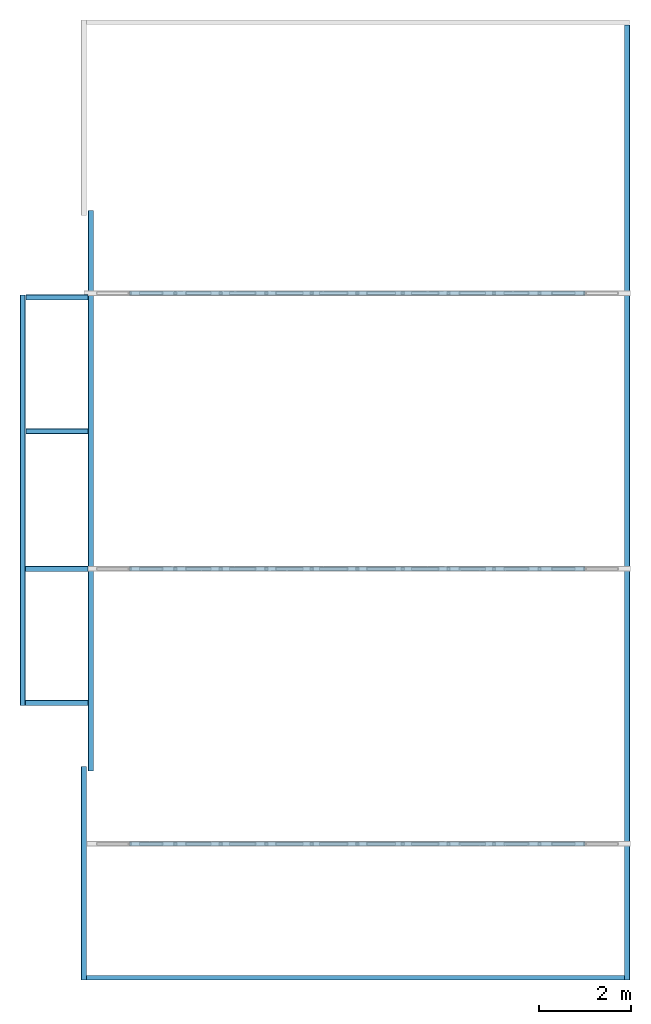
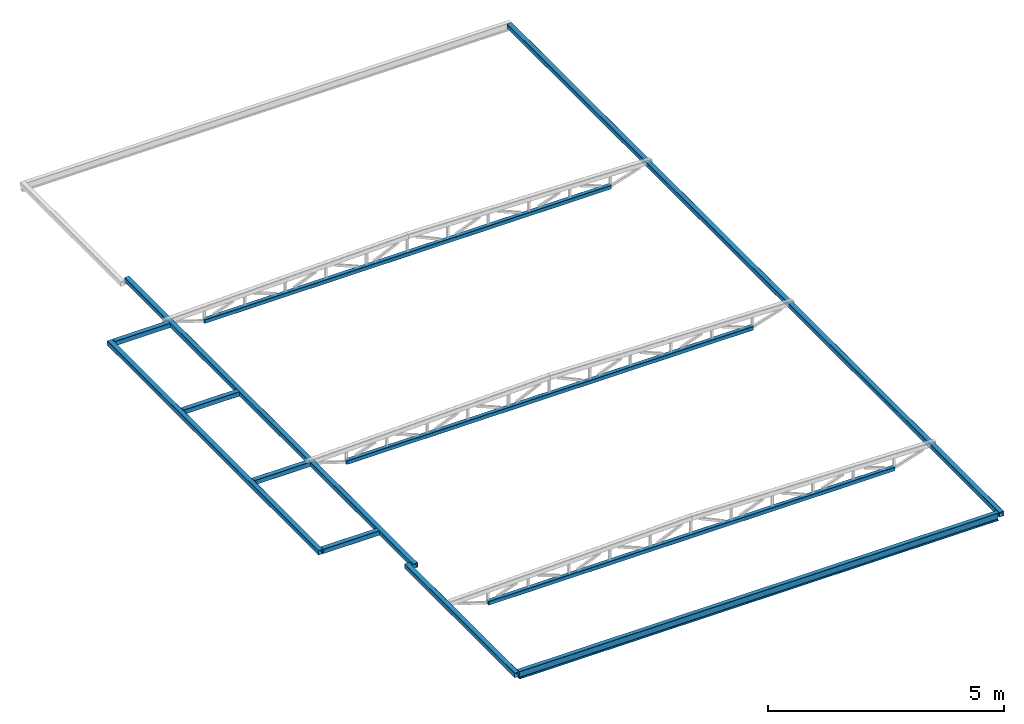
# One storey, part 1 of 10: 12 beams, 3 elements without a shape of their own.
"""IFC2X3 building model written with IfcOpenShell, lengths in millimetres."""

from ifc_helpers import new_model, entity, si_unit, converted_unit, derived_unit, direction, frame, frame_2d, origin, place, context, subcontext, project, spatial, polyline, circle_curve, parameter, trimmed, segment, composite_curve, i_section, outline, extrude, material, type_object, element, aggregate, save


model = new_model("IFC2X3")

# Units and contexts
model_context = context("Model", 3, precision=0.01, world=origin(), true_north=direction((6.12303176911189e-17, 1.0)))
body_context = subcontext(model_context, "Body", "Model", "MODEL_VIEW")
ifc_project = project(units=[si_unit("LENGTHUNIT", "METRE", prefix="MILLI"), si_unit("AREAUNIT", "SQUARE_METRE"), si_unit("VOLUMEUNIT", "CUBIC_METRE"), converted_unit("PLANEANGLEUNIT", "DEGREE", entity("IfcRatioMeasure", 0.0174532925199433), si_unit("PLANEANGLEUNIT", "RADIAN"), dimensions=[0, 0, 0, 0, 0, 0, 0]), si_unit("MASSUNIT", "GRAM", prefix="KILO"), derived_unit("MASSDENSITYUNIT", [(si_unit("MASSUNIT", "GRAM", prefix="KILO"), 1), (si_unit("LENGTHUNIT", "METRE"), -3)]), si_unit("TIMEUNIT", "SECOND"), si_unit("FREQUENCYUNIT", "HERTZ"), si_unit("THERMODYNAMICTEMPERATUREUNIT", "DEGREE_CELSIUS"), derived_unit("THERMALTRANSMITTANCEUNIT", [(si_unit("MASSUNIT", "GRAM", prefix="KILO"), 1), (si_unit("THERMODYNAMICTEMPERATUREUNIT", "KELVIN"), -1), (si_unit("TIMEUNIT", "SECOND"), -3)]), derived_unit("VOLUMETRICFLOWRATEUNIT", [(si_unit("LENGTHUNIT", "METRE"), 3), (si_unit("TIMEUNIT", "SECOND"), -1)]), si_unit("ELECTRICCURRENTUNIT", "AMPERE"), si_unit("ELECTRICVOLTAGEUNIT", "VOLT"), si_unit("POWERUNIT", "WATT"), si_unit("FORCEUNIT", "NEWTON", prefix="KILO"), si_unit("ILLUMINANCEUNIT", "LUX"), si_unit("LUMINOUSFLUXUNIT", "LUMEN"), si_unit("LUMINOUSINTENSITYUNIT", "CANDELA"), derived_unit("USERDEFINED", [(si_unit("MASSUNIT", "GRAM", prefix="KILO"), -1), (si_unit("LENGTHUNIT", "METRE"), -2), (si_unit("TIMEUNIT", "SECOND"), 3), (si_unit("LUMINOUSFLUXUNIT", "LUMEN"), 1)]), derived_unit("LINEARVELOCITYUNIT", [(si_unit("LENGTHUNIT", "METRE"), 1), (si_unit("TIMEUNIT", "SECOND"), -1)]), si_unit("PRESSUREUNIT", "PASCAL"), derived_unit("USERDEFINED", [(si_unit("LENGTHUNIT", "METRE"), -2), (si_unit("MASSUNIT", "GRAM", prefix="KILO"), 1), (si_unit("TIMEUNIT", "SECOND"), -2)])], contexts=[model_context])

# Site, building, storey
site_placement = place(None, frame((0.0, 0.0, 101000.0)))
site = spatial("IfcSite", under=ifc_project, at=site_placement, Name="Default", CompositionType="ELEMENT")
building_placement = place(site_placement, origin())
building = spatial("IfcBuilding", under=site, at=building_placement, CompositionType="ELEMENT")
storey_placement = place(building_placement, frame((0.0, 0.0, 6025.0)))
storey = spatial("IfcBuildingStorey", under=building, at=storey_placement, Name="03", CompositionType="ELEMENT", Elevation=6024.9999999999)

# Beams
ifc_material_1 = material(Name="Stål - S355")
beam_type_1 = type_object("IfcBeamType", Name="Bjelke IPE:IPE 200", PredefinedType="BEAM")
beam_1_placement = place(storey_placement, frame((11321.2644969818, 23497.9507529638, 0.0)))
element("IfcBeam", 1, at=beam_1_placement, inside=storey, type_object=beam_type_1, material=ifc_material_1, Name="Bjelke IPE:IPE 200", ObjectType="Bjelke IPE:IPE 200", context=body_context, shape_type="SweptSolid", body=[
    extrude(i_section(OverallWidth=100.000000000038, OverallDepth=200.0, WebThickness=5.59999999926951, FlangeThickness=8.50000000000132, FilletRadius=12.0000000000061, at=frame_2d((0.0, -2.16715534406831e-12), x_axis=(0.0, 1.0))), frame((0.0, 0.0, -100.0), z_axis=(1.0, 0.0, 0.0), x_axis=(0.0, 0.0, -1.0)), (0.0, 0.0, 1.0), 11730.0),
])
ifc_material_2 = material(Name="S355")
beam_type_2 = type_object("IfcBeamType", Name="Bjelke HUP:HUP 120x120x5", PredefinedType="BEAM")
beam_2_placement = place(storey_placement, frame((23111.2644969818, 44287.9507529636, 0.0), z_axis=(0.0, 0.0, 1.0), x_axis=(0.0, -1.0, 0.0)))
element("IfcBeam", 2, at=beam_2_placement, inside=storey, type_object=beam_type_2, material=ifc_material_2, Name="Bjelke HUP:HUP 120x120x5", ObjectType="Bjelke HUP:HUP 120x120x5", context=body_context, shape_type="SweptSolid", body=[
    extrude(outline(composite_curve([segment(trimmed(circle_curve(frame_2d((-50.0, -50.0), x_axis=(1.0, 0.0)), 10.0), [parameter(180.0)], [parameter(269.999999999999)], True, "PARAMETER"), True, "CONTINUOUS"), segment(polyline([(-50.0, -60.0), (50.0, -60.0)]), True, "CONTINUOUS"), segment(trimmed(circle_curve(frame_2d((50.0, -50.0), x_axis=(1.0, 0.0)), 10.0), [parameter(270.0)], [parameter(5.08888749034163e-14)], True, "PARAMETER"), True, "CONTINUOUS"), segment(polyline([(60.0, -50.0), (60.0, 50.0)]), True, "CONTINUOUS"), segment(trimmed(circle_curve(frame_2d((50.0, 50.0), x_axis=(1.0, 0.0)), 10.0), [parameter(360.0)], [parameter(89.9999999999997)], True, "PARAMETER"), True, "CONTINUOUS"), segment(polyline([(50.0, 60.0), (-50.0, 60.0)]), True, "CONTINUOUS"), segment(trimmed(circle_curve(frame_2d((-50.0, 50.0), x_axis=(1.0, 0.0)), 10.0), [parameter(90.0000000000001)], [parameter(180.0)], True, "PARAMETER"), True, "CONTINUOUS"), segment(polyline([(-60.0, 50.0), (-60.0, -50.0)]), True, "CONTINUOUS")], self_intersect=False), holes=[composite_curve([segment(polyline([(50.0, -55.0), (-50.0, -55.0)]), True, "CONTINUOUS"), segment(trimmed(circle_curve(frame_2d((-50.0, -50.0), x_axis=(1.0, 0.0)), 5.0), [parameter(180.0)], [parameter(270.0)], True, "PARAMETER"), False, "CONTINUOUS"), segment(polyline([(-55.0, -50.0), (-55.0, 50.0)]), True, "CONTINUOUS"), segment(trimmed(circle_curve(frame_2d((-50.0, 50.0), x_axis=(1.0, 0.0)), 5.0), [parameter(90.0000000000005)], [parameter(180.0)], True, "PARAMETER"), False, "CONTINUOUS"), segment(polyline([(-50.0, 55.0), (50.0, 55.0)]), True, "CONTINUOUS"), segment(trimmed(circle_curve(frame_2d((50.0, 50.0), x_axis=(1.0, 0.0)), 5.0), [parameter(0.0)], [parameter(90.0000000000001)], True, "PARAMETER"), False, "CONTINUOUS"), segment(polyline([(55.0, 50.0), (55.0, -50.0)]), True, "CONTINUOUS"), segment(trimmed(circle_curve(frame_2d((50.0, -50.0), x_axis=(1.0, 0.0)), 5.0), [parameter(270.0)], [parameter(3.05333249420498e-13)], True, "PARAMETER"), False, "CONTINUOUS")], self_intersect=False)]), frame((0.0, 0.0, -60.0), z_axis=(1.0, 0.0, 0.0), x_axis=(0.0, -1.0, 0.0)), (0.0, 0.0, 1.0), 20839.9999999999),
])
beam_3_placement = place(storey_placement, frame((11261.2644969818, 28058.4336358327, 0.0), z_axis=(0.0, 0.0, 1.0), x_axis=(0.0, -1.0, 0.0)))
element("IfcBeam", 3, at=beam_3_placement, inside=storey, type_object=beam_type_2, material=ifc_material_2, Name="Bjelke HUP:HUP 120x120x5", ObjectType="Bjelke HUP:HUP 120x120x5", context=body_context, shape_type="SweptSolid", body=[
    extrude(outline(composite_curve([segment(trimmed(circle_curve(frame_2d((-50.0, -50.0), x_axis=(1.0, 0.0)), 10.0), [parameter(180.0)], [parameter(269.999999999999)], True, "PARAMETER"), True, "CONTINUOUS"), segment(polyline([(-50.0, -60.0), (50.0, -60.0)]), True, "CONTINUOUS"), segment(trimmed(circle_curve(frame_2d((50.0, -50.0), x_axis=(1.0, 0.0)), 10.0), [parameter(270.0)], [parameter(5.08888749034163e-14)], True, "PARAMETER"), True, "CONTINUOUS"), segment(polyline([(60.0, -50.0), (60.0, 50.0)]), True, "CONTINUOUS"), segment(trimmed(circle_curve(frame_2d((50.0, 50.0), x_axis=(1.0, 0.0)), 10.0), [parameter(360.0)], [parameter(89.9999999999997)], True, "PARAMETER"), True, "CONTINUOUS"), segment(polyline([(50.0, 60.0), (-50.0, 60.0)]), True, "CONTINUOUS"), segment(trimmed(circle_curve(frame_2d((-50.0, 50.0), x_axis=(1.0, 0.0)), 10.0), [parameter(90.0000000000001)], [parameter(180.0)], True, "PARAMETER"), True, "CONTINUOUS"), segment(polyline([(-60.0, 50.0), (-60.0, -50.0)]), True, "CONTINUOUS")], self_intersect=False), holes=[composite_curve([segment(polyline([(50.0, -55.0), (-50.0, -55.0)]), True, "CONTINUOUS"), segment(trimmed(circle_curve(frame_2d((-50.0, -50.0), x_axis=(1.0, 0.0)), 5.0), [parameter(180.0)], [parameter(270.0)], True, "PARAMETER"), False, "CONTINUOUS"), segment(polyline([(-55.0, -50.0), (-55.0, 50.0)]), True, "CONTINUOUS"), segment(trimmed(circle_curve(frame_2d((-50.0, 50.0), x_axis=(1.0, 0.0)), 5.0), [parameter(90.0000000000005)], [parameter(180.0)], True, "PARAMETER"), False, "CONTINUOUS"), segment(polyline([(-50.0, 55.0), (50.0, 55.0)]), True, "CONTINUOUS"), segment(trimmed(circle_curve(frame_2d((50.0, 50.0), x_axis=(1.0, 0.0)), 5.0), [parameter(0.0)], [parameter(90.0000000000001)], True, "PARAMETER"), False, "CONTINUOUS"), segment(polyline([(55.0, 50.0), (55.0, -50.0)]), True, "CONTINUOUS"), segment(trimmed(circle_curve(frame_2d((50.0, -50.0), x_axis=(1.0, 0.0)), 5.0), [parameter(270.0)], [parameter(3.05333249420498e-13)], True, "PARAMETER"), False, "CONTINUOUS")], self_intersect=False)]), frame((-50.0, 0.0, -60.0), z_axis=(1.0, 0.0, 0.0), x_axis=(0.0, -1.0, 0.0)), (0.0, 0.0, 1.0), 4660.48288286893),
])
beam_4_placement = place(storey_placement, frame((11411.2644969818, 28008.4336358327, 0.0), z_axis=(0.0, 0.0, 1.0), x_axis=(0.0, 1.0, 0.0)))
element("IfcBeam", 4, at=beam_4_placement, inside=storey, type_object=beam_type_2, material=ifc_material_2, Name="Bjelke HUP:HUP 120x120x5", ObjectType="Bjelke HUP:HUP 120x120x5", context=body_context, shape_type="SweptSolid", body=[
    extrude(outline(composite_curve([segment(trimmed(circle_curve(frame_2d((-50.0, -50.0), x_axis=(1.0, 0.0)), 10.0), [parameter(180.0)], [parameter(269.999999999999)], True, "PARAMETER"), True, "CONTINUOUS"), segment(polyline([(-50.0, -60.0), (50.0, -60.0)]), True, "CONTINUOUS"), segment(trimmed(circle_curve(frame_2d((50.0, -50.0), x_axis=(1.0, 0.0)), 10.0), [parameter(270.0)], [parameter(5.08888749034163e-14)], True, "PARAMETER"), True, "CONTINUOUS"), segment(polyline([(60.0, -50.0), (60.0, 50.0)]), True, "CONTINUOUS"), segment(trimmed(circle_curve(frame_2d((50.0, 50.0), x_axis=(1.0, 0.0)), 10.0), [parameter(360.0)], [parameter(89.9999999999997)], True, "PARAMETER"), True, "CONTINUOUS"), segment(polyline([(50.0, 60.0), (-50.0, 60.0)]), True, "CONTINUOUS"), segment(trimmed(circle_curve(frame_2d((-50.0, 50.0), x_axis=(1.0, 0.0)), 10.0), [parameter(90.0000000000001)], [parameter(180.0)], True, "PARAMETER"), True, "CONTINUOUS"), segment(polyline([(-60.0, 50.0), (-60.0, -50.0)]), True, "CONTINUOUS")], self_intersect=False), holes=[composite_curve([segment(polyline([(50.0, -55.0), (-50.0, -55.0)]), True, "CONTINUOUS"), segment(trimmed(circle_curve(frame_2d((-50.0, -50.0), x_axis=(1.0, 0.0)), 5.0), [parameter(180.0)], [parameter(270.0)], True, "PARAMETER"), False, "CONTINUOUS"), segment(polyline([(-55.0, -50.0), (-55.0, 50.0)]), True, "CONTINUOUS"), segment(trimmed(circle_curve(frame_2d((-50.0, 50.0), x_axis=(1.0, 0.0)), 5.0), [parameter(90.0000000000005)], [parameter(180.0)], True, "PARAMETER"), False, "CONTINUOUS"), segment(polyline([(-50.0, 55.0), (50.0, 55.0)]), True, "CONTINUOUS"), segment(trimmed(circle_curve(frame_2d((50.0, 50.0), x_axis=(1.0, 0.0)), 5.0), [parameter(0.0)], [parameter(90.0000000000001)], True, "PARAMETER"), False, "CONTINUOUS"), segment(polyline([(55.0, 50.0), (55.0, -50.0)]), True, "CONTINUOUS"), segment(trimmed(circle_curve(frame_2d((50.0, -50.0), x_axis=(1.0, 0.0)), 5.0), [parameter(270.0)], [parameter(3.05333249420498e-13)], True, "PARAMETER"), False, "CONTINUOUS")], self_intersect=False)]), frame((0.0, 0.0, -60.0), z_axis=(1.0, 0.0, 0.0), x_axis=(0.0, -1.0, 0.0)), (0.0, 0.0, 1.0), 12223.5586234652),
])
beam_5_placement = place(storey_placement, frame((9926.26449698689, 38392.9507529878, 0.0), z_axis=(0.0, 0.0, 1.0), x_axis=(0.0, -1.0, 0.0)))
element("IfcBeam", 5, at=beam_5_placement, inside=storey, type_object=beam_type_2, material=ifc_material_2, Name="Bjelke HUP:HUP 120x120x5", ObjectType="Bjelke HUP:HUP 120x120x5", context=body_context, shape_type="SweptSolid", body=[
    extrude(outline(composite_curve([segment(trimmed(circle_curve(frame_2d((-50.0, -50.0), x_axis=(1.0, 0.0)), 10.0), [parameter(180.0)], [parameter(269.999999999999)], True, "PARAMETER"), True, "CONTINUOUS"), segment(polyline([(-50.0, -60.0), (50.0, -60.0)]), True, "CONTINUOUS"), segment(trimmed(circle_curve(frame_2d((50.0, -50.0), x_axis=(1.0, 0.0)), 10.0), [parameter(270.0)], [parameter(5.08888749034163e-14)], True, "PARAMETER"), True, "CONTINUOUS"), segment(polyline([(60.0, -50.0), (60.0, 50.0)]), True, "CONTINUOUS"), segment(trimmed(circle_curve(frame_2d((50.0, 50.0), x_axis=(1.0, 0.0)), 10.0), [parameter(360.0)], [parameter(89.9999999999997)], True, "PARAMETER"), True, "CONTINUOUS"), segment(polyline([(50.0, 60.0), (-50.0, 60.0)]), True, "CONTINUOUS"), segment(trimmed(circle_curve(frame_2d((-50.0, 50.0), x_axis=(1.0, 0.0)), 10.0), [parameter(90.0000000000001)], [parameter(180.0)], True, "PARAMETER"), True, "CONTINUOUS"), segment(polyline([(-60.0, 50.0), (-60.0, -50.0)]), True, "CONTINUOUS")], self_intersect=False), holes=[composite_curve([segment(polyline([(50.0, -55.0), (-50.0, -55.0)]), True, "CONTINUOUS"), segment(trimmed(circle_curve(frame_2d((-50.0, -50.0), x_axis=(1.0, 0.0)), 5.0), [parameter(180.0)], [parameter(270.0)], True, "PARAMETER"), False, "CONTINUOUS"), segment(polyline([(-55.0, -50.0), (-55.0, 50.0)]), True, "CONTINUOUS"), segment(trimmed(circle_curve(frame_2d((-50.0, 50.0), x_axis=(1.0, 0.0)), 5.0), [parameter(90.0000000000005)], [parameter(180.0)], True, "PARAMETER"), False, "CONTINUOUS"), segment(polyline([(-50.0, 55.0), (50.0, 55.0)]), True, "CONTINUOUS"), segment(trimmed(circle_curve(frame_2d((50.0, 50.0), x_axis=(1.0, 0.0)), 5.0), [parameter(0.0)], [parameter(90.0000000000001)], True, "PARAMETER"), False, "CONTINUOUS"), segment(polyline([(55.0, 50.0), (55.0, -50.0)]), True, "CONTINUOUS"), segment(trimmed(circle_curve(frame_2d((50.0, -50.0), x_axis=(1.0, 0.0)), 5.0), [parameter(270.0)], [parameter(3.05333249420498e-13)], True, "PARAMETER"), False, "CONTINUOUS")], self_intersect=False)]), frame((0.0, 0.0, -60.0), z_axis=(1.0, 0.0, 0.0), x_axis=(0.0, -1.0, 0.0)), (0.0, 0.0, 1.0), 8950.77674199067),
])
beam_6_placement = place(storey_placement, frame((9926.26449698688, 35420.5450559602, 0.0)))
element("IfcBeam", 6, at=beam_6_placement, inside=storey, type_object=beam_type_2, material=ifc_material_2, Name="Bjelke HUP:HUP 120x120x5", ObjectType="Bjelke HUP:HUP 120x120x5", context=body_context, shape_type="SweptSolid", body=[
    extrude(outline(composite_curve([segment(trimmed(circle_curve(frame_2d((-50.0, -50.0), x_axis=(1.0, 0.0)), 10.0), [parameter(180.0)], [parameter(269.999999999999)], True, "PARAMETER"), True, "CONTINUOUS"), segment(polyline([(-50.0, -60.0), (50.0, -60.0)]), True, "CONTINUOUS"), segment(trimmed(circle_curve(frame_2d((50.0, -50.0), x_axis=(1.0, 0.0)), 10.0), [parameter(270.0)], [parameter(5.08888749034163e-14)], True, "PARAMETER"), True, "CONTINUOUS"), segment(polyline([(60.0, -50.0), (60.0, 50.0)]), True, "CONTINUOUS"), segment(trimmed(circle_curve(frame_2d((50.0, 50.0), x_axis=(1.0, 0.0)), 10.0), [parameter(360.0)], [parameter(89.9999999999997)], True, "PARAMETER"), True, "CONTINUOUS"), segment(polyline([(50.0, 60.0), (-50.0, 60.0)]), True, "CONTINUOUS"), segment(trimmed(circle_curve(frame_2d((-50.0, 50.0), x_axis=(1.0, 0.0)), 10.0), [parameter(90.0000000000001)], [parameter(180.0)], True, "PARAMETER"), True, "CONTINUOUS"), segment(polyline([(-60.0, 50.0), (-60.0, -50.0)]), True, "CONTINUOUS")], self_intersect=False), holes=[composite_curve([segment(polyline([(50.0, -55.0), (-50.0, -55.0)]), True, "CONTINUOUS"), segment(trimmed(circle_curve(frame_2d((-50.0, -50.0), x_axis=(1.0, 0.0)), 5.0), [parameter(180.0)], [parameter(270.0)], True, "PARAMETER"), False, "CONTINUOUS"), segment(polyline([(-55.0, -50.0), (-55.0, 50.0)]), True, "CONTINUOUS"), segment(trimmed(circle_curve(frame_2d((-50.0, 50.0), x_axis=(1.0, 0.0)), 5.0), [parameter(90.0000000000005)], [parameter(180.0)], True, "PARAMETER"), False, "CONTINUOUS"), segment(polyline([(-50.0, 55.0), (50.0, 55.0)]), True, "CONTINUOUS"), segment(trimmed(circle_curve(frame_2d((50.0, 50.0), x_axis=(1.0, 0.0)), 5.0), [parameter(0.0)], [parameter(90.0000000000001)], True, "PARAMETER"), False, "CONTINUOUS"), segment(polyline([(55.0, 50.0), (55.0, -50.0)]), True, "CONTINUOUS"), segment(trimmed(circle_curve(frame_2d((50.0, -50.0), x_axis=(1.0, 0.0)), 5.0), [parameter(270.0)], [parameter(3.05333249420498e-13)], True, "PARAMETER"), False, "CONTINUOUS")], self_intersect=False)]), frame((72.6999999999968, 0.0, -60.0), z_axis=(1.0, 0.0, 0.0), x_axis=(0.0, -1.0, 0.0)), (0.0, 0.0, 1.0), 1352.3),
])
beam_7_placement = place(storey_placement, frame((9926.26449698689, 38342.9507529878, 0.0)))
element("IfcBeam", 7, at=beam_7_placement, inside=storey, type_object=beam_type_2, material=ifc_material_2, Name="Bjelke HUP:HUP 120x120x5", ObjectType="Bjelke HUP:HUP 120x120x5", context=body_context, shape_type="SweptSolid", body=[
    extrude(outline(composite_curve([segment(trimmed(circle_curve(frame_2d((-50.0, -50.0), x_axis=(1.0, 0.0)), 10.0), [parameter(180.0)], [parameter(269.999999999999)], True, "PARAMETER"), True, "CONTINUOUS"), segment(polyline([(-50.0, -60.0), (50.0, -60.0)]), True, "CONTINUOUS"), segment(trimmed(circle_curve(frame_2d((50.0, -50.0), x_axis=(1.0, 0.0)), 10.0), [parameter(270.0)], [parameter(5.08888749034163e-14)], True, "PARAMETER"), True, "CONTINUOUS"), segment(polyline([(60.0, -50.0), (60.0, 50.0)]), True, "CONTINUOUS"), segment(trimmed(circle_curve(frame_2d((50.0, 50.0), x_axis=(1.0, 0.0)), 10.0), [parameter(360.0)], [parameter(89.9999999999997)], True, "PARAMETER"), True, "CONTINUOUS"), segment(polyline([(50.0, 60.0), (-50.0, 60.0)]), True, "CONTINUOUS"), segment(trimmed(circle_curve(frame_2d((-50.0, 50.0), x_axis=(1.0, 0.0)), 10.0), [parameter(90.0000000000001)], [parameter(180.0)], True, "PARAMETER"), True, "CONTINUOUS"), segment(polyline([(-60.0, 50.0), (-60.0, -50.0)]), True, "CONTINUOUS")], self_intersect=False), holes=[composite_curve([segment(polyline([(50.0, -55.0), (-50.0, -55.0)]), True, "CONTINUOUS"), segment(trimmed(circle_curve(frame_2d((-50.0, -50.0), x_axis=(1.0, 0.0)), 5.0), [parameter(180.0)], [parameter(270.0)], True, "PARAMETER"), False, "CONTINUOUS"), segment(polyline([(-55.0, -50.0), (-55.0, 50.0)]), True, "CONTINUOUS"), segment(trimmed(circle_curve(frame_2d((-50.0, 50.0), x_axis=(1.0, 0.0)), 5.0), [parameter(90.0000000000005)], [parameter(180.0)], True, "PARAMETER"), False, "CONTINUOUS"), segment(polyline([(-50.0, 55.0), (50.0, 55.0)]), True, "CONTINUOUS"), segment(trimmed(circle_curve(frame_2d((50.0, 50.0), x_axis=(1.0, 0.0)), 5.0), [parameter(0.0)], [parameter(90.0000000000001)], True, "PARAMETER"), False, "CONTINUOUS"), segment(polyline([(55.0, 50.0), (55.0, -50.0)]), True, "CONTINUOUS"), segment(trimmed(circle_curve(frame_2d((50.0, -50.0), x_axis=(1.0, 0.0)), 5.0), [parameter(270.0)], [parameter(3.05333249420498e-13)], True, "PARAMETER"), False, "CONTINUOUS")], self_intersect=False)]), frame((72.699999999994, 0.0, -60.0), z_axis=(1.0, 0.0, 0.0), x_axis=(0.0, -1.0, 0.0)), (0.0, 0.0, 1.0), 1352.3),
])
beam_8_placement = place(storey_placement, frame((9986.26449698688, 32417.9507529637, 0.0)))
element("IfcBeam", 8, at=beam_8_placement, inside=storey, type_object=beam_type_2, material=ifc_material_2, Name="Bjelke HUP:HUP 120x120x5", ObjectType="Bjelke HUP:HUP 120x120x5", context=body_context, shape_type="SweptSolid", body=[
    extrude(outline(composite_curve([segment(trimmed(circle_curve(frame_2d((-50.0, -50.0), x_axis=(1.0, 0.0)), 10.0), [parameter(180.0)], [parameter(269.999999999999)], True, "PARAMETER"), True, "CONTINUOUS"), segment(polyline([(-50.0, -60.0), (50.0, -60.0)]), True, "CONTINUOUS"), segment(trimmed(circle_curve(frame_2d((50.0, -50.0), x_axis=(1.0, 0.0)), 10.0), [parameter(270.0)], [parameter(5.08888749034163e-14)], True, "PARAMETER"), True, "CONTINUOUS"), segment(polyline([(60.0, -50.0), (60.0, 50.0)]), True, "CONTINUOUS"), segment(trimmed(circle_curve(frame_2d((50.0, 50.0), x_axis=(1.0, 0.0)), 10.0), [parameter(360.0)], [parameter(89.9999999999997)], True, "PARAMETER"), True, "CONTINUOUS"), segment(polyline([(50.0, 60.0), (-50.0, 60.0)]), True, "CONTINUOUS"), segment(trimmed(circle_curve(frame_2d((-50.0, 50.0), x_axis=(1.0, 0.0)), 10.0), [parameter(90.0000000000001)], [parameter(180.0)], True, "PARAMETER"), True, "CONTINUOUS"), segment(polyline([(-60.0, 50.0), (-60.0, -50.0)]), True, "CONTINUOUS")], self_intersect=False), holes=[composite_curve([segment(polyline([(50.0, -55.0), (-50.0, -55.0)]), True, "CONTINUOUS"), segment(trimmed(circle_curve(frame_2d((-50.0, -50.0), x_axis=(1.0, 0.0)), 5.0), [parameter(180.0)], [parameter(270.0)], True, "PARAMETER"), False, "CONTINUOUS"), segment(polyline([(-55.0, -50.0), (-55.0, 50.0)]), True, "CONTINUOUS"), segment(trimmed(circle_curve(frame_2d((-50.0, 50.0), x_axis=(1.0, 0.0)), 5.0), [parameter(90.0000000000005)], [parameter(180.0)], True, "PARAMETER"), False, "CONTINUOUS"), segment(polyline([(-50.0, 55.0), (50.0, 55.0)]), True, "CONTINUOUS"), segment(trimmed(circle_curve(frame_2d((50.0, 50.0), x_axis=(1.0, 0.0)), 5.0), [parameter(0.0)], [parameter(90.0000000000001)], True, "PARAMETER"), False, "CONTINUOUS"), segment(polyline([(55.0, 50.0), (55.0, -50.0)]), True, "CONTINUOUS"), segment(trimmed(circle_curve(frame_2d((50.0, -50.0), x_axis=(1.0, 0.0)), 5.0), [parameter(270.0)], [parameter(3.05333249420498e-13)], True, "PARAMETER"), False, "CONTINUOUS")], self_intersect=False)]), frame((0.0, 0.0, -60.0), z_axis=(1.0, 0.0, 0.0), x_axis=(0.0, -1.0, 0.0)), (0.0, 0.0, 1.0), 1365.0),
])
beam_9_placement = place(storey_placement, frame((9986.26449698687, 29492.1740109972, 0.0)))
element("IfcBeam", 9, at=beam_9_placement, inside=storey, type_object=beam_type_2, material=ifc_material_2, Name="Bjelke HUP:HUP 120x120x5", ObjectType="Bjelke HUP:HUP 120x120x5", context=body_context, shape_type="SweptSolid", body=[
    extrude(outline(composite_curve([segment(trimmed(circle_curve(frame_2d((-50.0, -50.0), x_axis=(1.0, 0.0)), 10.0), [parameter(180.0)], [parameter(269.999999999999)], True, "PARAMETER"), True, "CONTINUOUS"), segment(polyline([(-50.0, -60.0), (50.0, -60.0)]), True, "CONTINUOUS"), segment(trimmed(circle_curve(frame_2d((50.0, -50.0), x_axis=(1.0, 0.0)), 10.0), [parameter(270.0)], [parameter(5.08888749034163e-14)], True, "PARAMETER"), True, "CONTINUOUS"), segment(polyline([(60.0, -50.0), (60.0, 50.0)]), True, "CONTINUOUS"), segment(trimmed(circle_curve(frame_2d((50.0, 50.0), x_axis=(1.0, 0.0)), 10.0), [parameter(360.0)], [parameter(89.9999999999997)], True, "PARAMETER"), True, "CONTINUOUS"), segment(polyline([(50.0, 60.0), (-50.0, 60.0)]), True, "CONTINUOUS"), segment(trimmed(circle_curve(frame_2d((-50.0, 50.0), x_axis=(1.0, 0.0)), 10.0), [parameter(90.0000000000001)], [parameter(180.0)], True, "PARAMETER"), True, "CONTINUOUS"), segment(polyline([(-60.0, 50.0), (-60.0, -50.0)]), True, "CONTINUOUS")], self_intersect=False), holes=[composite_curve([segment(polyline([(50.0, -55.0), (-50.0, -55.0)]), True, "CONTINUOUS"), segment(trimmed(circle_curve(frame_2d((-50.0, -50.0), x_axis=(1.0, 0.0)), 5.0), [parameter(180.0)], [parameter(270.0)], True, "PARAMETER"), False, "CONTINUOUS"), segment(polyline([(-55.0, -50.0), (-55.0, 50.0)]), True, "CONTINUOUS"), segment(trimmed(circle_curve(frame_2d((-50.0, 50.0), x_axis=(1.0, 0.0)), 5.0), [parameter(90.0000000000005)], [parameter(180.0)], True, "PARAMETER"), False, "CONTINUOUS"), segment(polyline([(-50.0, 55.0), (50.0, 55.0)]), True, "CONTINUOUS"), segment(trimmed(circle_curve(frame_2d((50.0, 50.0), x_axis=(1.0, 0.0)), 5.0), [parameter(0.0)], [parameter(90.0000000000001)], True, "PARAMETER"), False, "CONTINUOUS"), segment(polyline([(55.0, 50.0), (55.0, -50.0)]), True, "CONTINUOUS"), segment(trimmed(circle_curve(frame_2d((50.0, -50.0), x_axis=(1.0, 0.0)), 5.0), [parameter(270.0)], [parameter(3.05333249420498e-13)], True, "PARAMETER"), False, "CONTINUOUS")], self_intersect=False)]), frame((0.0, 0.0, -60.0), z_axis=(1.0, 0.0, 0.0), x_axis=(0.0, -1.0, 0.0)), (0.0, 0.0, 1.0), 1365.0),
])

# Assembly, beam
assembly_1_placement = place(storey_placement, origin())
assembly_1 = element("IfcElementAssembly", 10, at=assembly_1_placement, inside=storey, Name="Gitterdrager:Standard", ObjectType="Gitterdrager:Standard", AssemblyPlace="NOTDEFINED", PredefinedType="TRUSS")
beam_type_3 = type_object("IfcBeamType", Name="Bjelke HUP:HUP 100x100x5", PredefinedType="BEAM")
beam_10_placement = place(assembly_1_placement, frame((12259.5978303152, 26417.9507529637, -341.023754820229)))
beam_10 = element("IfcBeam", 11, at=beam_10_placement, type_object=beam_type_3, Name="Bjelke HUP:HUP 100x100x5", ObjectType="Bjelke HUP:HUP 100x100x5", context=body_context, shape_type="SweptSolid", body=[
    extrude(outline(composite_curve([segment(trimmed(circle_curve(frame_2d((-40.0, -40.0), x_axis=(1.0, 0.0)), 10.0), [parameter(180.0)], [parameter(269.999999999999)], True, "PARAMETER"), True, "CONTINUOUS"), segment(polyline([(-40.0, -50.0), (40.0, -50.0)]), True, "CONTINUOUS"), segment(trimmed(circle_curve(frame_2d((40.0, -40.0), x_axis=(1.0, 0.0)), 10.0), [parameter(270.0)], [parameter(5.08888749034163e-14)], True, "PARAMETER"), True, "CONTINUOUS"), segment(polyline([(50.0, -40.0), (50.0, 40.0)]), True, "CONTINUOUS"), segment(trimmed(circle_curve(frame_2d((40.0, 40.0), x_axis=(1.0, 0.0)), 10.0), [parameter(360.0)], [parameter(89.9999999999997)], True, "PARAMETER"), True, "CONTINUOUS"), segment(polyline([(40.0, 50.0), (-40.0, 50.0)]), True, "CONTINUOUS"), segment(trimmed(circle_curve(frame_2d((-40.0, 40.0), x_axis=(1.0, 0.0)), 10.0), [parameter(90.0000000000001)], [parameter(180.0)], True, "PARAMETER"), True, "CONTINUOUS"), segment(polyline([(-50.0, 40.0), (-50.0, -40.0)]), True, "CONTINUOUS")], self_intersect=False), holes=[composite_curve([segment(polyline([(40.0, -45.0), (-40.0, -45.0)]), True, "CONTINUOUS"), segment(trimmed(circle_curve(frame_2d((-40.0, -40.0), x_axis=(1.0, 0.0)), 5.0), [parameter(180.0)], [parameter(270.0)], True, "PARAMETER"), False, "CONTINUOUS"), segment(polyline([(-45.0, -40.0), (-45.0, 40.0)]), True, "CONTINUOUS"), segment(trimmed(circle_curve(frame_2d((-40.0, 40.0), x_axis=(1.0, 0.0)), 5.0), [parameter(90.0000000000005)], [parameter(180.0)], True, "PARAMETER"), False, "CONTINUOUS"), segment(polyline([(-40.0, 45.0), (40.0, 45.0)]), True, "CONTINUOUS"), segment(trimmed(circle_curve(frame_2d((40.0, 40.0), x_axis=(1.0, 0.0)), 5.0), [parameter(0.0)], [parameter(90.0000000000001)], True, "PARAMETER"), False, "CONTINUOUS"), segment(polyline([(45.0, 40.0), (45.0, -40.0)]), True, "CONTINUOUS"), segment(trimmed(circle_curve(frame_2d((40.0, -40.0), x_axis=(1.0, 0.0)), 5.0), [parameter(270.0)], [parameter(5.08888749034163e-13)], True, "PARAMETER"), False, "CONTINUOUS")], self_intersect=False)]), frame((0.0, 0.0, 0.0), z_axis=(1.0, 0.0, 0.0), x_axis=(0.0, -1.0, 0.0)), (0.0, 0.0, 1.0), 9933.33333333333),
])
aggregate(assembly_1, [beam_10])

assembly_2_placement = place(storey_placement, origin())
assembly_2 = element("IfcElementAssembly", 12, at=assembly_2_placement, inside=storey, Name="Gitterdrager:Standard", ObjectType="Gitterdrager:Standard", AssemblyPlace="NOTDEFINED", PredefinedType="TRUSS")
beam_11_placement = place(assembly_2_placement, frame((12259.5978303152, 32417.9507529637, -341.023754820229)))
beam_11 = element("IfcBeam", 13, at=beam_11_placement, type_object=beam_type_3, Name="Bjelke HUP:HUP 100x100x5", ObjectType="Bjelke HUP:HUP 100x100x5", context=body_context, shape_type="SweptSolid", body=[
    extrude(outline(composite_curve([segment(trimmed(circle_curve(frame_2d((-40.0, -40.0), x_axis=(1.0, 0.0)), 10.0), [parameter(180.0)], [parameter(269.999999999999)], True, "PARAMETER"), True, "CONTINUOUS"), segment(polyline([(-40.0, -50.0), (40.0, -50.0)]), True, "CONTINUOUS"), segment(trimmed(circle_curve(frame_2d((40.0, -40.0), x_axis=(1.0, 0.0)), 10.0), [parameter(270.0)], [parameter(5.08888749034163e-14)], True, "PARAMETER"), True, "CONTINUOUS"), segment(polyline([(50.0, -40.0), (50.0, 40.0)]), True, "CONTINUOUS"), segment(trimmed(circle_curve(frame_2d((40.0, 40.0), x_axis=(1.0, 0.0)), 10.0), [parameter(360.0)], [parameter(89.9999999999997)], True, "PARAMETER"), True, "CONTINUOUS"), segment(polyline([(40.0, 50.0), (-40.0, 50.0)]), True, "CONTINUOUS"), segment(trimmed(circle_curve(frame_2d((-40.0, 40.0), x_axis=(1.0, 0.0)), 10.0), [parameter(90.0000000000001)], [parameter(180.0)], True, "PARAMETER"), True, "CONTINUOUS"), segment(polyline([(-50.0, 40.0), (-50.0, -40.0)]), True, "CONTINUOUS")], self_intersect=False), holes=[composite_curve([segment(polyline([(40.0, -45.0), (-40.0, -45.0)]), True, "CONTINUOUS"), segment(trimmed(circle_curve(frame_2d((-40.0, -40.0), x_axis=(1.0, 0.0)), 5.0), [parameter(180.0)], [parameter(270.0)], True, "PARAMETER"), False, "CONTINUOUS"), segment(polyline([(-45.0, -40.0), (-45.0, 40.0)]), True, "CONTINUOUS"), segment(trimmed(circle_curve(frame_2d((-40.0, 40.0), x_axis=(1.0, 0.0)), 5.0), [parameter(90.0000000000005)], [parameter(180.0)], True, "PARAMETER"), False, "CONTINUOUS"), segment(polyline([(-40.0, 45.0), (40.0, 45.0)]), True, "CONTINUOUS"), segment(trimmed(circle_curve(frame_2d((40.0, 40.0), x_axis=(1.0, 0.0)), 5.0), [parameter(0.0)], [parameter(90.0000000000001)], True, "PARAMETER"), False, "CONTINUOUS"), segment(polyline([(45.0, 40.0), (45.0, -40.0)]), True, "CONTINUOUS"), segment(trimmed(circle_curve(frame_2d((40.0, -40.0), x_axis=(1.0, 0.0)), 5.0), [parameter(270.0)], [parameter(5.08888749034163e-13)], True, "PARAMETER"), False, "CONTINUOUS")], self_intersect=False)]), frame((0.0, 0.0, 0.0), z_axis=(1.0, 0.0, 0.0), x_axis=(0.0, -1.0, 0.0)), (0.0, 0.0, 1.0), 9933.33333333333),
])
aggregate(assembly_2, [beam_11])

assembly_3_placement = place(storey_placement, origin())
assembly_3 = element("IfcElementAssembly", 14, at=assembly_3_placement, inside=storey, Name="Gitterdrager:Standard", ObjectType="Gitterdrager:Standard", AssemblyPlace="NOTDEFINED", PredefinedType="TRUSS")
beam_12_placement = place(assembly_3_placement, frame((12259.5978303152, 38432.1864743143, -341.023754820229)))
beam_12 = element("IfcBeam", 15, at=beam_12_placement, type_object=beam_type_3, Name="Bjelke HUP:HUP 100x100x5", ObjectType="Bjelke HUP:HUP 100x100x5", context=body_context, shape_type="SweptSolid", body=[
    extrude(outline(composite_curve([segment(trimmed(circle_curve(frame_2d((-40.0, -40.0), x_axis=(1.0, 0.0)), 10.0), [parameter(180.0)], [parameter(269.999999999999)], True, "PARAMETER"), True, "CONTINUOUS"), segment(polyline([(-40.0, -50.0), (40.0, -50.0)]), True, "CONTINUOUS"), segment(trimmed(circle_curve(frame_2d((40.0, -40.0), x_axis=(1.0, 0.0)), 10.0), [parameter(270.0)], [parameter(5.08888749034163e-14)], True, "PARAMETER"), True, "CONTINUOUS"), segment(polyline([(50.0, -40.0), (50.0, 40.0)]), True, "CONTINUOUS"), segment(trimmed(circle_curve(frame_2d((40.0, 40.0), x_axis=(1.0, 0.0)), 10.0), [parameter(360.0)], [parameter(89.9999999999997)], True, "PARAMETER"), True, "CONTINUOUS"), segment(polyline([(40.0, 50.0), (-40.0, 50.0)]), True, "CONTINUOUS"), segment(trimmed(circle_curve(frame_2d((-40.0, 40.0), x_axis=(1.0, 0.0)), 10.0), [parameter(90.0000000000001)], [parameter(180.0)], True, "PARAMETER"), True, "CONTINUOUS"), segment(polyline([(-50.0, 40.0), (-50.0, -40.0)]), True, "CONTINUOUS")], self_intersect=False), holes=[composite_curve([segment(polyline([(40.0, -45.0), (-40.0, -45.0)]), True, "CONTINUOUS"), segment(trimmed(circle_curve(frame_2d((-40.0, -40.0), x_axis=(1.0, 0.0)), 5.0), [parameter(180.0)], [parameter(270.0)], True, "PARAMETER"), False, "CONTINUOUS"), segment(polyline([(-45.0, -40.0), (-45.0, 40.0)]), True, "CONTINUOUS"), segment(trimmed(circle_curve(frame_2d((-40.0, 40.0), x_axis=(1.0, 0.0)), 5.0), [parameter(90.0000000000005)], [parameter(180.0)], True, "PARAMETER"), False, "CONTINUOUS"), segment(polyline([(-40.0, 45.0), (40.0, 45.0)]), True, "CONTINUOUS"), segment(trimmed(circle_curve(frame_2d((40.0, 40.0), x_axis=(1.0, 0.0)), 5.0), [parameter(0.0)], [parameter(90.0000000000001)], True, "PARAMETER"), False, "CONTINUOUS"), segment(polyline([(45.0, 40.0), (45.0, -40.0)]), True, "CONTINUOUS"), segment(trimmed(circle_curve(frame_2d((40.0, -40.0), x_axis=(1.0, 0.0)), 5.0), [parameter(270.0)], [parameter(5.08888749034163e-13)], True, "PARAMETER"), False, "CONTINUOUS")], self_intersect=False)]), frame((0.0, 0.0, 0.0), z_axis=(1.0, 0.0, 0.0), x_axis=(0.0, -1.0, 0.0)), (0.0, 0.0, 1.0), 9933.33333333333),
])
aggregate(assembly_3, [beam_12])

save(model, "model.ifc")
